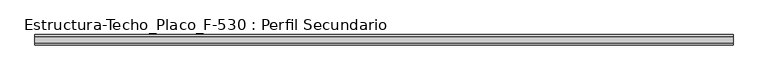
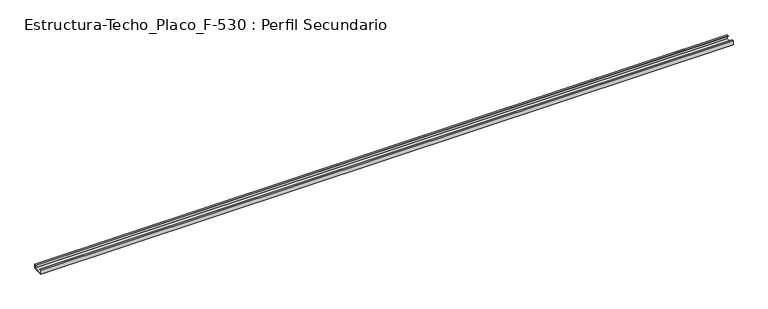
"""IFC4 building model written with IfcOpenShell, lengths in millimetres: proxy geometry, Estructura-Techo_Placo_F-530 : Perfil Secundario."""

from ifc_helpers import new_model, si_unit, frame, origin, place, context, project, spatial, polyline, outline, extrude, source, transform, mapped, element, save


def estructura_techo_placo_f_530_perfil_secundario_b405df22(model_context):
    return source(origin(), model_context, "Body", "SweptSolid", [
        extrude(outline(polyline([(15.5, 18.0), (22.5, 18.0), (22.5, 0.0), (-22.5, 0.0), (-22.5, 18.0), (-15.5, 18.0), (-15.5, 17.0), (-21.5, 17.0), (-21.5, 1.0), (21.5, 1.0), (21.5, 17.0), (15.5, 17.0), (15.5, 18.0)])), frame((0.0, 0.0, 0.0), z_axis=(1.0, 0.0, 0.0), x_axis=(0.0, 1.0, 0.0)), (0.0, 0.0, 1.0), 3000.0),
    ])


if __name__ == "__main__":
    model = new_model("IFC4")
    model_context = context("Model", 3, world=origin())
    ifc_project = project(units=[si_unit("LENGTHUNIT", "METRE", prefix="MILLI")], contexts=[model_context])
    site = spatial("IfcSite", under=ifc_project)
    building = spatial("IfcBuilding", under=site)
    placement = place(None, origin())
    estructura_techo_placo_f_530_perfil_secundario_shape = estructura_techo_placo_f_530_perfil_secundario_b405df22(model_context)
    element("IfcBuildingElementProxy", 1, Name="Estructura-Techo_Placo_F-530 : Perfil Secundario", ObjectType="Estructura-Techo_Placo_F-530 : Perfil Secundario", at=placement, inside=building, context=model_context, shape_type="MappedRepresentation", body=[
        mapped(estructura_techo_placo_f_530_perfil_secundario_shape, transform((0.0, 0.0, 0.0), x_axis=(1.0, 0.0, 0.0), y_axis=(0.0, 1.0, 0.0), z_axis=(0.0, 0.0, 1.0))),
    ])
    save(model, "model.ifc")
